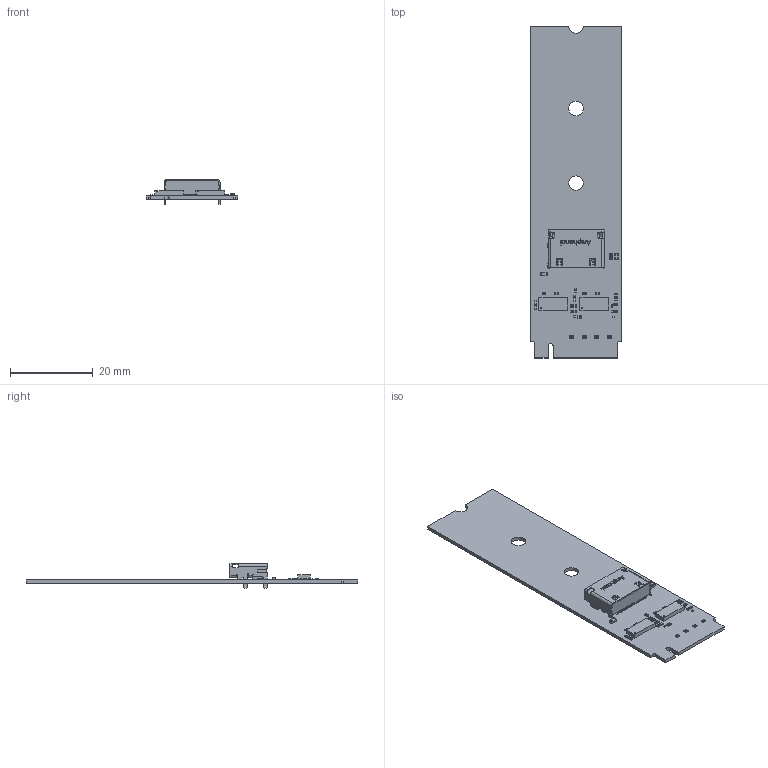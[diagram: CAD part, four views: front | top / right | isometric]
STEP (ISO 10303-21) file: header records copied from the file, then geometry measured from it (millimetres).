
FILE_DESCRIPTION(('Open CASCADE Model'),'2;1');
FILE_NAME('Open CASCADE Shape Model','2024-12-04T14:33:30',('Author'),( 'Open CASCADE'),'Open CASCADE STEP processor 7.5','Open CASCADE 7.5' ,'Unknown');
FILE_SCHEMA(('AUTOMOTIVE_DESIGN { 1 0 10303 214 1 1 1 1 }'));
Length unit declared in the file: millimetre
Products named in the file (74): PCB; Board; Open CASCADE STEP translator 7.5 2.1.1; C19; C0603_060; C18; U2; 5534416048; Open CASCADE STEP translator 7.5 4.1; Body; Open CASCADE STEP translator 7.5 4.2.1; ball; U1; R25; R0201 AC0201; R24; R23; R22; R21; R18; R17; R16; R15; 0603_RES; Capsule; Encapsulation; TopCover; R14; R13; R12; R11; R10; R9; R8; R6; R4; R3; R2; R1; CN1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
Assembly tree (272 placements, depth 5):
  PCB
    Board
      Open CASCADE STEP translator 7.5 2.1.1
    C19
      C0603_060
      C0603_060
      C0603_060
    C18
      C0603_060
      C0603_060
      C0603_060
    U2
      5534416048
        Open CASCADE STEP translator 7.5 4.1
        Body
          Open CASCADE STEP translator 7.5 4.2.1
        ball  x49
    U1
      5534416048
        Open CASCADE STEP translator 7.5 4.1
        Body
          Open CASCADE STEP translator 7.5 4.2.1
        ball  x49
    R25
      R0201 AC0201
      R0201 AC0201
      R0201 AC0201
      R0201 AC0201
    R24
      R0201 AC0201
      R0201 AC0201
      R0201 AC0201
      R0201 AC0201
    R23
      R0201 AC0201
      R0201 AC0201
      R0201 AC0201
      R0201 AC0201
    R22
      R0201 AC0201
      R0201 AC0201
      R0201 AC0201
      R0201 AC0201
    R21
      R0201 AC0201
      R0201 AC0201
      R0201 AC0201
      R0201 AC0201
    R18
      R0201 AC0201
      R0201 AC0201
      R0201 AC0201
      R0201 AC0201
    R17
      R0201 AC0201
      R0201 AC0201
      R0201 AC0201
      R0201 AC0201
    R16
      R0201 AC0201
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Bounding box: 22 x 80 x 5.95 mm (x, y, z)
Volume: 2387.5 mm3; surface area: 6375.2 mm2
Topology: 266 solids, 268 shells, 6922 faces, 17580 edges, 10926 vertices
Faces by surface type: plane 5182, cylinder 1345, sphere 306, bspline 62, cone 27
Full cylindrical faces by diameter (mm): 0.362 x2, 1 x2, 3.5 x2
Entity records: 135902 total; most frequent: CARTESIAN_POINT 19452, ORIENTED_EDGE 17955, DIRECTION 17243, EDGE_CURVE 8978, LINE 7737, VECTOR 7737, VERTEX_POINT 5672, AXIS2_PLACEMENT_3D 4753
